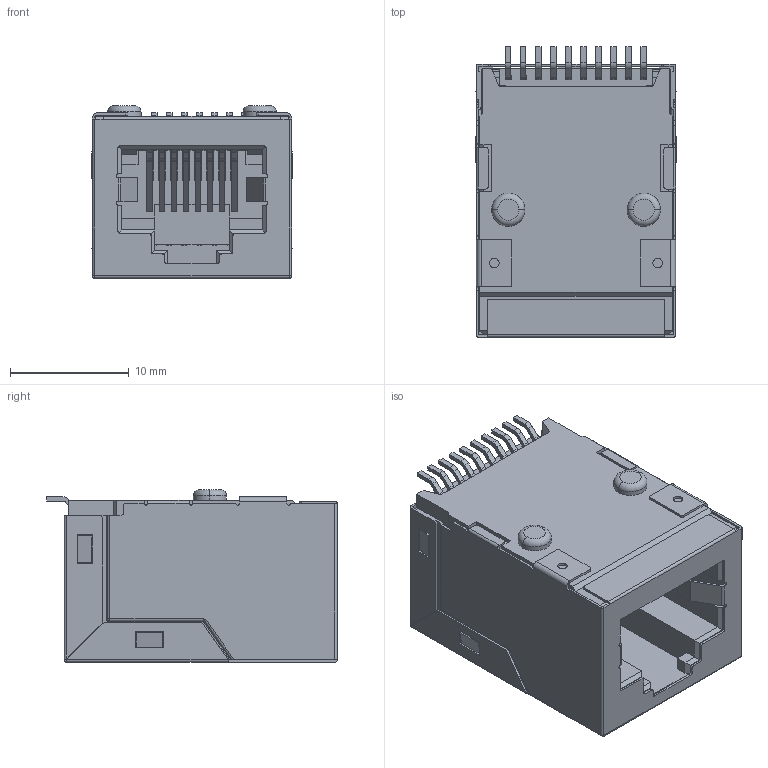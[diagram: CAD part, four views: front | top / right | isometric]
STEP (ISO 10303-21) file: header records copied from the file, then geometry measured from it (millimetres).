
FILE_DESCRIPTION((''),'2;1');
FILE_NAME('DGKYD911Q032GWA7S057','2023-06-09T09:00:56',('Administrator'),(''),'CREO PARAMETRIC BY PTC INC, 2019010','CREO PARAMETRIC BY PTC INC, 2019010','');
FILE_SCHEMA(('CONFIG_CONTROL_DESIGN'));
Length unit declared in the file: millimetre
Products named in the file (1): DGKYD911Q032GWA7S057
Bounding box: 16.89 x 24.52 x 14.55 mm (x, y, z)
Volume: 3436.9 mm3; surface area: 6920.5 mm2
Topology: 1 solids, 1 shells, 1092 faces, 3069 edges, 2004 vertices
Faces by surface type: plane 829, cylinder 243, bspline 10, torus 8, sphere 2
Entity records: 35262 total; most frequent: CARTESIAN_POINT 6548, ORIENTED_EDGE 6124, DIRECTION 5732, EDGE_CURVE 3062, VECTOR 2528, LINE 2528, VERTEX_POINT 2004, AXIS2_PLACEMENT_3D 1602
